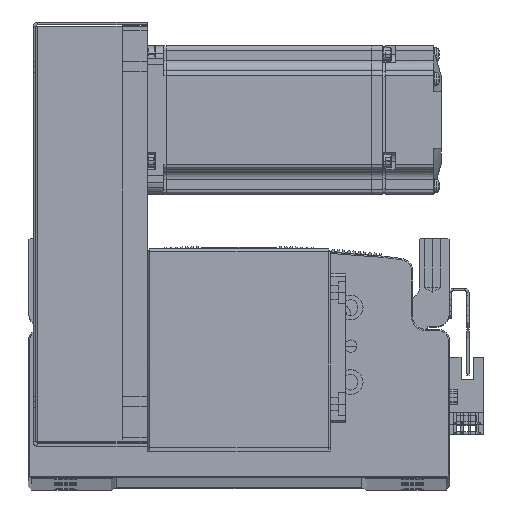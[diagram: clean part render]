
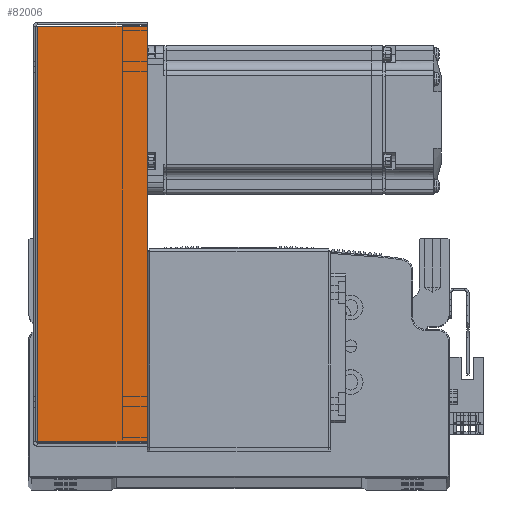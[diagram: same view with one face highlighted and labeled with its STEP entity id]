
A CAD part, top view. The second image highlights one B-rep face of the part: STEP entity #82006.
In plain terms, the highlighted planar face has unit normal (0, 0, 1) as drawn and (0, 0, -1) by its records, which use the part's own axes.
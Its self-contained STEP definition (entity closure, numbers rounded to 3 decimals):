
#24663 = VECTOR ( 'NONE', #26962, 1000. ) ;
#24673 = LINE ( 'NONE', #26904, #24663 ) ;
#24742 = VECTOR ( 'NONE', #87252, 1000. ) ;
#24746 = LINE ( 'NONE', #85116, #24742 ) ;
#24805 = VECTOR ( 'NONE', #28571, 1000. ) ;
#24812 = LINE ( 'NONE', #28562, #24805 ) ;
#24862 = LINE ( 'NONE', #28895, #24870 ) ;
#24870 = VECTOR ( 'NONE', #28910, 1000. ) ;
#26904 = CARTESIAN_POINT ( 'NONE',  ( 0., 0.737, -40.5 ) ) ;
#26962 = DIRECTION ( 'NONE',  ( 1., 0., 0. ) ) ;
#28562 = CARTESIAN_POINT ( 'NONE',  ( 84.5, 45., -40.5 ) ) ;
#28571 = DIRECTION ( 'NONE',  ( 1., 0., 0. ) ) ;
#28895 = CARTESIAN_POINT ( 'NONE',  ( -83.793, 0., -40.5 ) ) ;
#28910 = DIRECTION ( 'NONE',  ( 0., 1., 0. ) ) ;
#60690 = EDGE_CURVE ( 'NONE', #93204, #93314, #24673, .T. ) ;
#60782 = EDGE_CURVE ( 'NONE', #93314, #93241, #24746, .T. ) ;
#60851 = EDGE_CURVE ( 'NONE', #93291, #93241, #24812, .T. ) ;
#60939 = EDGE_CURVE ( 'NONE', #93204, #93291, #24862, .T. ) ;
#64112 = ORIENTED_EDGE ( 'NONE', *, *, #60690, .F. ) ;
#64139 = ORIENTED_EDGE ( 'NONE', *, *, #60782, .F. ) ;
#64156 = ORIENTED_EDGE ( 'NONE', *, *, #60939, .T. ) ;
#64158 = ORIENTED_EDGE ( 'NONE', *, *, #60851, .T. ) ;
#69177 = FACE_OUTER_BOUND ( 'NONE', #90165, .T. ) ;
#70046 = AXIS2_PLACEMENT_3D ( 'NONE', #77308, #77312, #77314 ) ;
#77308 = CARTESIAN_POINT ( 'NONE',  ( 0., 0., -40.5 ) ) ;
#77312 = DIRECTION ( 'NONE',  ( 0., 0., 1. ) ) ;
#77314 = DIRECTION ( 'NONE',  ( 0., -1., 0. ) ) ;
#77384 = PLANE ( 'NONE',  #70046 ) ;
#80101 = CARTESIAN_POINT ( 'NONE',  ( -83.793, 0.737, -40.5 ) ) ;
#80137 = CARTESIAN_POINT ( 'NONE',  ( 83.793, 45., -40.5 ) ) ;
#80144 = CARTESIAN_POINT ( 'NONE',  ( -83.793, 45., -40.5 ) ) ;
#80165 = CARTESIAN_POINT ( 'NONE',  ( 83.793, 0.737, -40.5 ) ) ;
#82006 = ADVANCED_FACE ( 'NONE', ( #69177 ), #77384, .F. ) ;
#85116 = CARTESIAN_POINT ( 'NONE',  ( 83.793, 0., -40.5 ) ) ;
#87252 = DIRECTION ( 'NONE',  ( 0., 1., 0. ) ) ;
#90165 = EDGE_LOOP ( 'NONE', ( #64112, #64156, #64158, #64139 ) ) ;
#93204 = VERTEX_POINT ( 'NONE', #80101 ) ;
#93241 = VERTEX_POINT ( 'NONE', #80137 ) ;
#93291 = VERTEX_POINT ( 'NONE', #80144 ) ;
#93314 = VERTEX_POINT ( 'NONE', #80165 ) ;
